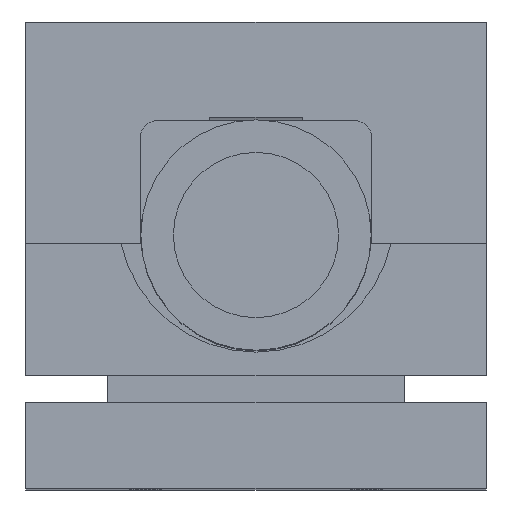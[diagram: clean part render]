
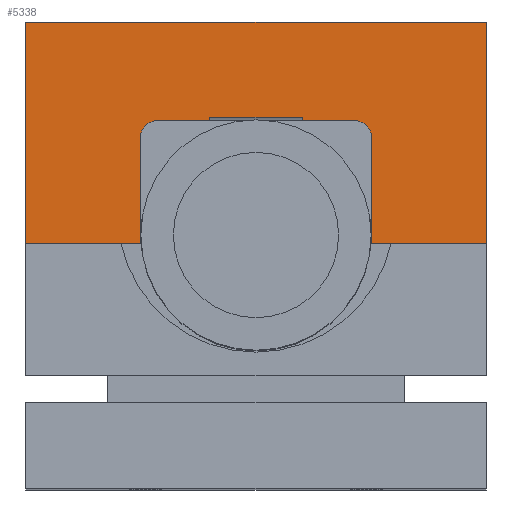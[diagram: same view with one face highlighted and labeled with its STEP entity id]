
A CAD part, top view. The second image highlights one B-rep face of the part: STEP entity #5338.
In plain terms, the highlighted planar face has unit normal (0, 0, 1).
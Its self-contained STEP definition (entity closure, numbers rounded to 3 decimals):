
#64 = AXIS2_PLACEMENT_3D ( 'NONE', #7746, #4360, #6774 ) ;
#256 = CARTESIAN_POINT ( 'NONE',  ( -37.75, 0., 14. ) ) ;
#559 = EDGE_CURVE ( 'NONE', #1547, #819, #5576, .T. ) ;
#782 = ORIENTED_EDGE ( 'NONE', *, *, #13691, .T. ) ;
#819 = VERTEX_POINT ( 'NONE', #6660 ) ;
#1163 = DIRECTION ( 'NONE',  ( 1., 0., 0. ) ) ;
#1351 = VECTOR ( 'NONE', #4784, 1000. ) ;
#1547 = VERTEX_POINT ( 'NONE', #11447 ) ;
#1719 = CIRCLE ( 'NONE', #64, 6. ) ;
#1829 = CARTESIAN_POINT ( 'NONE',  ( 15., 0., 14. ) ) ;
#1901 = DIRECTION ( 'NONE',  ( 0., 0., -1. ) ) ;
#2205 = VERTEX_POINT ( 'NONE', #1829 ) ;
#2647 = LINE ( 'NONE', #9565, #11049 ) ;
#3307 = LINE ( 'NONE', #7877, #14335 ) ;
#3500 = CARTESIAN_POINT ( 'NONE',  ( 37.75, 0., 14. ) ) ;
#3510 = EDGE_CURVE ( 'NONE', #12403, #8320, #4671, .T. ) ;
#3588 = ORIENTED_EDGE ( 'NONE', *, *, #3510, .T. ) ;
#3595 = EDGE_CURVE ( 'NONE', #8384, #8323, #3679, .T. ) ;
#3607 = DIRECTION ( 'NONE',  ( 1., 0., 0. ) ) ;
#3622 = ORIENTED_EDGE ( 'NONE', *, *, #559, .T. ) ;
#3625 = ORIENTED_EDGE ( 'NONE', *, *, #11173, .T. ) ;
#3679 = LINE ( 'NONE', #8543, #8352 ) ;
#3725 = VECTOR ( 'NONE', #6453, 1000. ) ;
#4020 = CARTESIAN_POINT ( 'NONE',  ( 37.75, 0., 14. ) ) ;
#4088 = CARTESIAN_POINT ( 'NONE',  ( -75., 32., 14. ) ) ;
#4342 = VERTEX_POINT ( 'NONE', #6461 ) ;
#4360 = DIRECTION ( 'NONE',  ( 0., 0., -1. ) ) ;
#4540 = EDGE_CURVE ( 'NONE', #4857, #8384, #3307, .T. ) ;
#4671 = LINE ( 'NONE', #9150, #11426 ) ;
#4784 = DIRECTION ( 'NONE',  ( 0., 1., 0. ) ) ;
#4857 = VERTEX_POINT ( 'NONE', #9442 ) ;
#5252 = EDGE_CURVE ( 'NONE', #9414, #8281, #2647, .T. ) ;
#5338 = ADVANCED_FACE ( 'NONE', ( #14513 ), #10760, .F. ) ;
#5435 = DIRECTION ( 'NONE',  ( 0., -1., 0. ) ) ;
#5463 = ORIENTED_EDGE ( 'NONE', *, *, #9964, .T. ) ;
#5533 = EDGE_CURVE ( 'NONE', #9403, #4342, #13615, .T. ) ;
#5576 = CIRCLE ( 'NONE', #12449, 6. ) ;
#5827 = AXIS2_PLACEMENT_3D ( 'NONE', #13254, #14365, #12308 ) ;
#5958 = ORIENTED_EDGE ( 'NONE', *, *, #5252, .T. ) ;
#6413 = VECTOR ( 'NONE', #12224, 1000. ) ;
#6445 = DIRECTION ( 'NONE',  ( -1., 0., 0. ) ) ;
#6453 = DIRECTION ( 'NONE',  ( 0., -1., 0. ) ) ;
#6461 = CARTESIAN_POINT ( 'NONE',  ( -37.75, -6., 14. ) ) ;
#6569 = VECTOR ( 'NONE', #8142, 1000. ) ;
#6660 = CARTESIAN_POINT ( 'NONE',  ( 37.75, -6., 14. ) ) ;
#6774 = DIRECTION ( 'NONE',  ( -1., 0., 0. ) ) ;
#6815 = EDGE_CURVE ( 'NONE', #8320, #4857, #10224, .T. ) ;
#7038 = CARTESIAN_POINT ( 'NONE',  ( 75., 32., 14. ) ) ;
#7335 = DIRECTION ( 'NONE',  ( 1., 0., 0. ) ) ;
#7589 = CARTESIAN_POINT ( 'NONE',  ( -31.75, 0., 14. ) ) ;
#7712 = CARTESIAN_POINT ( 'NONE',  ( 37.75, -40., 14. ) ) ;
#7730 = ORIENTED_EDGE ( 'NONE', *, *, #3595, .T. ) ;
#7746 = CARTESIAN_POINT ( 'NONE',  ( -31.75, -6., 14. ) ) ;
#7870 = EDGE_LOOP ( 'NONE', ( #11039, #5958, #10424, #8216, #3622, #3625, #3588, #8371, #13016, #7730, #14164, #8943, #782, #5463 ) ) ;
#7877 = CARTESIAN_POINT ( 'NONE',  ( -75., 32., 14. ) ) ;
#7958 = CARTESIAN_POINT ( 'NONE',  ( 15., -3.015, 14. ) ) ;
#8069 = DIRECTION ( 'NONE',  ( 1., 0., 0. ) ) ;
#8096 = CARTESIAN_POINT ( 'NONE',  ( 15., 0.985, 14. ) ) ;
#8142 = DIRECTION ( 'NONE',  ( 0., 1., 0. ) ) ;
#8216 = ORIENTED_EDGE ( 'NONE', *, *, #11716, .T. ) ;
#8281 = VERTEX_POINT ( 'NONE', #8096 ) ;
#8320 = VERTEX_POINT ( 'NONE', #10397 ) ;
#8323 = VERTEX_POINT ( 'NONE', #11365 ) ;
#8352 = VECTOR ( 'NONE', #14163, 1000. ) ;
#8371 = ORIENTED_EDGE ( 'NONE', *, *, #6815, .T. ) ;
#8379 = DIRECTION ( 'NONE',  ( 1., 0., 0. ) ) ;
#8384 = VERTEX_POINT ( 'NONE', #4088 ) ;
#8543 = CARTESIAN_POINT ( 'NONE',  ( -75., -40., 14. ) ) ;
#8828 = LINE ( 'NONE', #7712, #6413 ) ;
#8943 = ORIENTED_EDGE ( 'NONE', *, *, #5533, .T. ) ;
#8968 = VERTEX_POINT ( 'NONE', #13302 ) ;
#9066 = DIRECTION ( 'NONE',  ( -1., 0., 0. ) ) ;
#9150 = CARTESIAN_POINT ( 'NONE',  ( 75., -40., 14. ) ) ;
#9247 = CARTESIAN_POINT ( 'NONE',  ( 37.75, -40., 14. ) ) ;
#9403 = VERTEX_POINT ( 'NONE', #13724 ) ;
#9414 = VERTEX_POINT ( 'NONE', #12621 ) ;
#9442 = CARTESIAN_POINT ( 'NONE',  ( 75., 32., 14. ) ) ;
#9565 = CARTESIAN_POINT ( 'NONE',  ( -15., 0.985, 14. ) ) ;
#9648 = EDGE_CURVE ( 'NONE', #9414, #8968, #13490, .T. ) ;
#9782 = EDGE_CURVE ( 'NONE', #8323, #9403, #11351, .T. ) ;
#9964 = EDGE_CURVE ( 'NONE', #11728, #8968, #14211, .T. ) ;
#10224 = LINE ( 'NONE', #7038, #1351 ) ;
#10397 = CARTESIAN_POINT ( 'NONE',  ( 75., -40., 14. ) ) ;
#10424 = ORIENTED_EDGE ( 'NONE', *, *, #13692, .T. ) ;
#10652 = VECTOR ( 'NONE', #1163, 1000. ) ;
#10760 = PLANE ( 'NONE',  #5827 ) ;
#11039 = ORIENTED_EDGE ( 'NONE', *, *, #9648, .F. ) ;
#11049 = VECTOR ( 'NONE', #8379, 1000. ) ;
#11173 = EDGE_CURVE ( 'NONE', #819, #12403, #8828, .T. ) ;
#11294 = LINE ( 'NONE', #7958, #12405 ) ;
#11351 = LINE ( 'NONE', #11566, #10652 ) ;
#11365 = CARTESIAN_POINT ( 'NONE',  ( -75., -40., 14. ) ) ;
#11426 = VECTOR ( 'NONE', #3607, 1000. ) ;
#11447 = CARTESIAN_POINT ( 'NONE',  ( 31.75, 0., 14. ) ) ;
#11566 = CARTESIAN_POINT ( 'NONE',  ( -75., -40., 14. ) ) ;
#11716 = EDGE_CURVE ( 'NONE', #2205, #1547, #14538, .T. ) ;
#11728 = VERTEX_POINT ( 'NONE', #7589 ) ;
#11835 = VECTOR ( 'NONE', #7335, 1000. ) ;
#12224 = DIRECTION ( 'NONE',  ( 0., -1., 0. ) ) ;
#12308 = DIRECTION ( 'NONE',  ( -1., 0., 0. ) ) ;
#12345 = VECTOR ( 'NONE', #8069, 1000. ) ;
#12403 = VERTEX_POINT ( 'NONE', #9247 ) ;
#12405 = VECTOR ( 'NONE', #5435, 1000. ) ;
#12449 = AXIS2_PLACEMENT_3D ( 'NONE', #13338, #1901, #6445 ) ;
#12621 = CARTESIAN_POINT ( 'NONE',  ( -15., 0.985, 14. ) ) ;
#13016 = ORIENTED_EDGE ( 'NONE', *, *, #4540, .T. ) ;
#13254 = CARTESIAN_POINT ( 'NONE',  ( 0., 0., 14. ) ) ;
#13302 = CARTESIAN_POINT ( 'NONE',  ( -15., 0., 14. ) ) ;
#13338 = CARTESIAN_POINT ( 'NONE',  ( 31.75, -6., 14. ) ) ;
#13345 = CARTESIAN_POINT ( 'NONE',  ( -15., -3.015, 14. ) ) ;
#13490 = LINE ( 'NONE', #13345, #3725 ) ;
#13615 = LINE ( 'NONE', #256, #6569 ) ;
#13691 = EDGE_CURVE ( 'NONE', #4342, #11728, #1719, .T. ) ;
#13692 = EDGE_CURVE ( 'NONE', #8281, #2205, #11294, .T. ) ;
#13724 = CARTESIAN_POINT ( 'NONE',  ( -37.75, -40., 14. ) ) ;
#14163 = DIRECTION ( 'NONE',  ( 0., -1., 0. ) ) ;
#14164 = ORIENTED_EDGE ( 'NONE', *, *, #9782, .T. ) ;
#14211 = LINE ( 'NONE', #4020, #11835 ) ;
#14335 = VECTOR ( 'NONE', #9066, 1000. ) ;
#14365 = DIRECTION ( 'NONE',  ( 0., 0., -1. ) ) ;
#14513 = FACE_OUTER_BOUND ( 'NONE', #7870, .T. ) ;
#14538 = LINE ( 'NONE', #3500, #12345 ) ;
